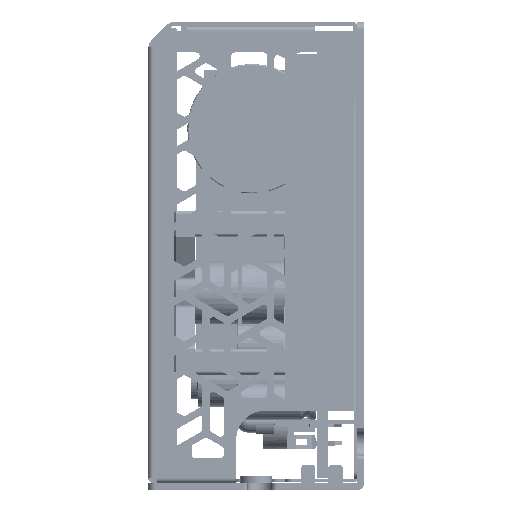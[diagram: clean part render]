
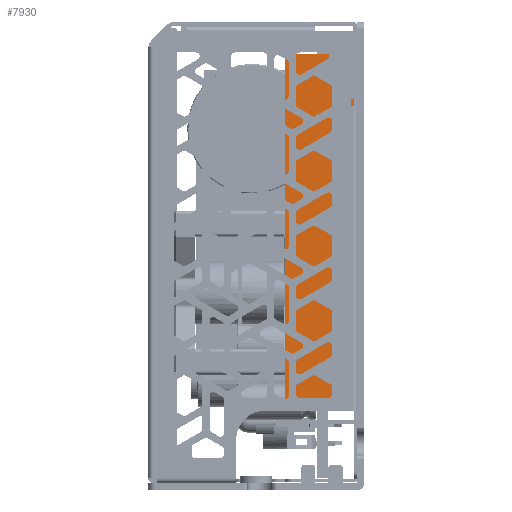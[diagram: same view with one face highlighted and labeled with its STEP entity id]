
A CAD part, left-side view. The second image highlights one B-rep face of the part: STEP entity #7930.
In plain terms, the highlighted planar face has unit normal (-1, 0, 0).
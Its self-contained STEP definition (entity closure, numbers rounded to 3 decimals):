
#1331=DIRECTION('',(0.,-1.,0.));
#1332=VECTOR('',#1331,8.57);
#1333=CARTESIAN_POINT('',(-39.45,10.,33.03));
#1334=LINE('',#1333,#1332);
#1347=DIRECTION('',(0.,0.,1.));
#1348=VECTOR('',#1347,49.5);
#1349=CARTESIAN_POINT('',(-39.45,1.43,-16.47));
#1350=LINE('',#1349,#1348);
#1355=CARTESIAN_POINT('',(-39.45,10.,32.03));
#1356=DIRECTION('',(-1.,0.,0.));
#1357=DIRECTION('',(0.,0.,1.));
#1358=AXIS2_PLACEMENT_3D('',#1355,#1356,#1357);
#1360=CARTESIAN_POINT('',(-39.45,10.,-15.47));
#1361=DIRECTION('',(-1.,0.,0.));
#1362=DIRECTION('',(0.,1.,0.));
#1363=AXIS2_PLACEMENT_3D('',#1360,#1361,#1362);
#1373=DIRECTION('',(0.,0.,1.));
#1374=VECTOR('',#1373,47.5);
#1375=CARTESIAN_POINT('',(-39.45,11.,-15.47));
#1376=LINE('',#1375,#1374);
#1385=DIRECTION('',(0.,1.,0.));
#1386=VECTOR('',#1385,8.57);
#1387=CARTESIAN_POINT('',(-39.45,1.43,-16.47));
#1388=LINE('',#1387,#1386);
#3655=CARTESIAN_POINT('',(-39.45,1.43,33.03));
#3656=VERTEX_POINT('',#3655);
#3657=CARTESIAN_POINT('',(-39.45,1.43,-16.47));
#3658=VERTEX_POINT('',#3657);
#3659=CARTESIAN_POINT('',(-39.45,10.,33.03));
#3660=CARTESIAN_POINT('',(-39.45,11.,32.03));
#3661=VERTEX_POINT('',#3659);
#3662=VERTEX_POINT('',#3660);
#3663=CARTESIAN_POINT('',(-39.45,10.,-16.47));
#3664=VERTEX_POINT('',#3663);
#3665=CARTESIAN_POINT('',(-39.45,11.,-15.47));
#3666=VERTEX_POINT('',#3665);
#7913=CARTESIAN_POINT('',(-39.45,6.215,8.28));
#7914=DIRECTION('',(1.,0.,0.));
#7915=DIRECTION('',(0.,0.,1.));
#7916=AXIS2_PLACEMENT_3D('',#7913,#7914,#7915);
#7917=PLANE('',#7916);
#7919=ORIENTED_EDGE('',*,*,#7918,.F.);
#7920=ORIENTED_EDGE('',*,*,#7873,.T.);
#7921=ORIENTED_EDGE('',*,*,#7897,.F.);
#7923=ORIENTED_EDGE('',*,*,#7922,.T.);
#7925=ORIENTED_EDGE('',*,*,#7924,.F.);
#7927=ORIENTED_EDGE('',*,*,#7926,.T.);
#7928=EDGE_LOOP('',(#7919,#7920,#7921,#7923,#7925,#7927));
#7929=FACE_OUTER_BOUND('',#7928,.F.);
#1359=CIRCLE('',#1358,1.);
#1364=CIRCLE('',#1363,1.);
#7873=EDGE_CURVE('',#3661,#3656,#1334,.T.);
#7897=EDGE_CURVE('',#3658,#3656,#1350,.T.);
#7918=EDGE_CURVE('',#3661,#3662,#1359,.T.);
#7922=EDGE_CURVE('',#3658,#3664,#1388,.T.);
#7924=EDGE_CURVE('',#3666,#3664,#1364,.T.);
#7926=EDGE_CURVE('',#3666,#3662,#1376,.T.);
#7930=ADVANCED_FACE('',(#7929),#7917,.F.);
